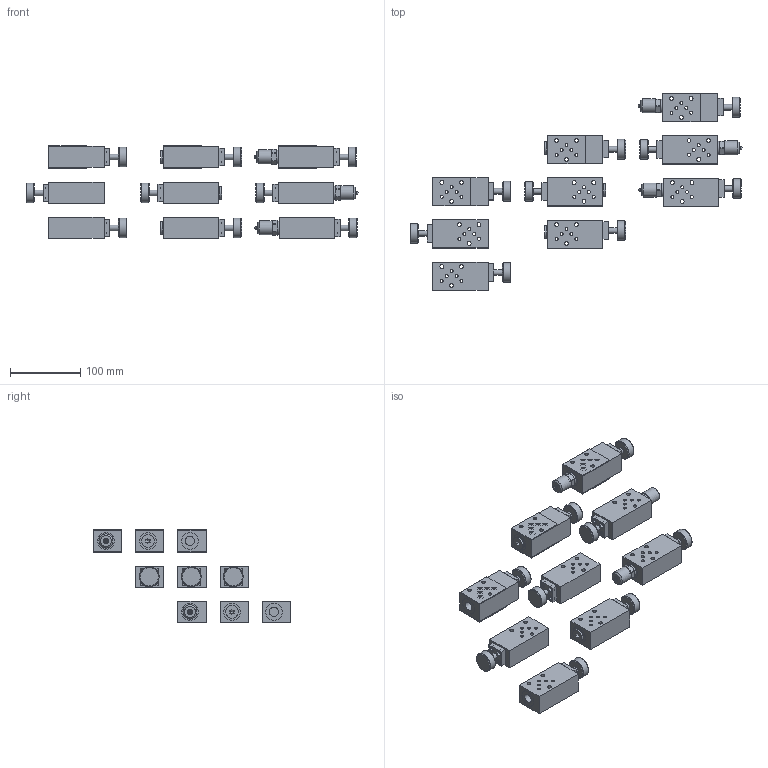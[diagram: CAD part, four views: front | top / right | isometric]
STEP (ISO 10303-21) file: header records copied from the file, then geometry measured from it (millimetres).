
FILE_DESCRIPTION(('Bauteilbeschreibung','HiCAD-Model','HiCAD-STEP-TRANSLATION','Bauteilbeschreibung'),'2;1');
FILE_NAME('C:/_EIGENE_DATEN/DXF_STEP/BAH_4.STP','2008-09-17T15:34:05+00:00',('Konstrukteur'),('Konstrukteur Firma GmbH'),' HiCAD neXt 2007, Step 3.1.1212.3C ','HiCAD neXt 2007','confidential');
FILE_SCHEMA(('AUTOMOTIVE_DESIGN { 1 2 10303 214 0 1 1 1 }'));
Length unit declared in the file: millimetre
Products named in the file (106): BAH_4; BAHA4_O; AD87B713; IN6KTM4; IN6KTM40; IN6KTM41; A2642943; AD71E6ED; BAHP4_O; AE3987AF; AD5BB171; IN6KTM42; IN6KTM43; IN6KTM44; A26429430; BAHB4_M; A6623C85; IN6KTM45; IN6KTM46; IN6KTM47; A26429431; AD71E6ED0; B824588F; SCHRAUBKUPPLUNG; SCHRAUBKUPPLUNG0; DIN_ISO_228_1; DIN_13; AD576D58; AD576D580; DIN013; F512CFEC; ACEC7249; BAHA4_M; A1470ADB; IN6KTM48; IN6KTM49; IN6KTM410; A26429432; AD71E6ED1; B824588F0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
Assembly tree (105 placements, depth 6):
  BAH_4
    BAHA4_O
      AD87B713
        IN6KTM4
          IN6KTM40
          IN6KTM41
        A2642943
        AD71E6ED
    BAHP4_O
      AE3987AF
        AD5BB171
        IN6KTM42
          IN6KTM43
          IN6KTM44
        A26429430
    BAHB4_M
      A6623C85
        IN6KTM45
          IN6KTM46
          IN6KTM47
        A26429431
        AD71E6ED0
        B824588F
          SCHRAUBKUPPLUNG
          SCHRAUBKUPPLUNG0
            DIN_ISO_228_1
            DIN_13
          AD576D58
          AD576D580
            DIN013
        F512CFEC
        ACEC7249
    BAHA4_M
      A1470ADB
        IN6KTM48
          IN6KTM49
          IN6KTM410
        A26429432
        AD71E6ED1
        B824588F0
          SCHRAUBKUPPLUNG1
          SCHRAUBKUPPLUNG2
            DIN0ISO022801
            DIN0130
          AD576D581
          AD576D582
            DIN0131
    BAHP4_M
      AC47E084
        AD5BB1710
        IN6KTM411
          IN6KTM412
          IN6KTM413
        A26429433
        B824588F1
          SCHRAUBKUPPLUNG3
          SCHRAUBKUPPLUNG4
            DIN0ISO0228010
            DIN0132
          AD576D583
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Bounding box: 474.2 x 280 x 132.5 mm (x, y, z)
Volume: 959227.9 mm3; surface area: 259673.6 mm2
Topology: 66 solids, 66 shells, 1068 faces, 3195 edges, 2412 vertices
Faces by surface type: plane 543, cylinder 402, cone 111, torus 12
Full cylindrical faces by diameter (mm): 3 x3, 4 x18, 4.2 x60, 4.5 x36, 5.5 x45, 7 x21, 8 x45, 8.5 x45, 8.6 x15, 11.2 x6, 11.445 x12, 13 x6, 13.157 x6, 13.2 x9, 13.546 x12, 14.2 x3, 16 x9, 17 x3, 17.9 x3, 18 x3, 19 x3, 20 x3, 24 x9, 28 x9
Entity records: 37494 total; most frequent: CARTESIAN_POINT 7782, DIRECTION 6486, ORIENTED_EDGE 4794, AXIS2_PLACEMENT_3D 2883, EDGE_CURVE 2397, VERTEX_POINT 2091, EDGE_LOOP 2034, CIRCLE 1605
